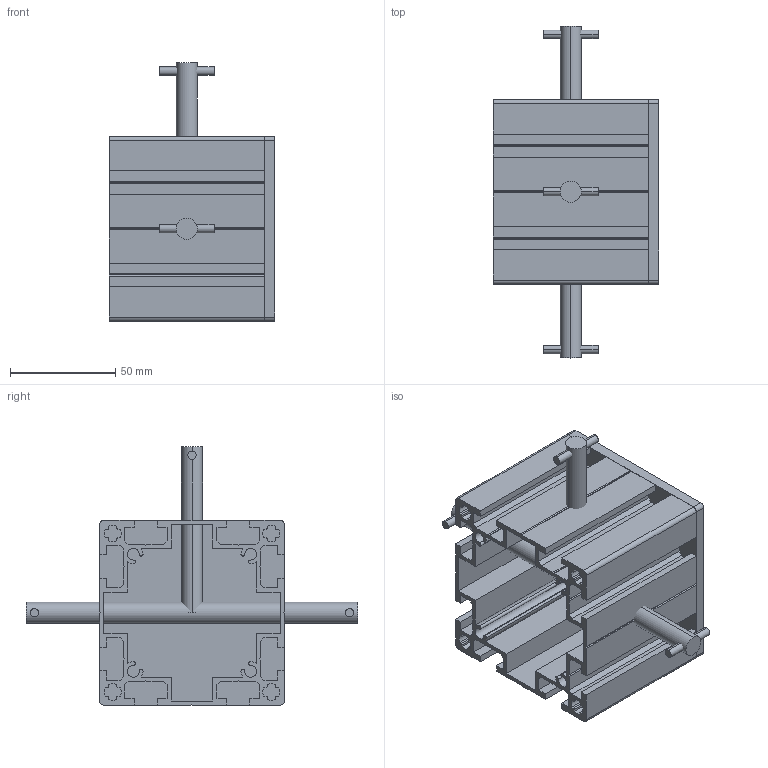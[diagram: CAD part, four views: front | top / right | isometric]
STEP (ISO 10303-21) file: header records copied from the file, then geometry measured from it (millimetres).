
FILE_DESCRIPTION (( 'STEP AP214' ), '1' );
FILE_NAME ('FGFW 90.step', '2017-04-05T08:04:45', ( '' ), ( '' ), 'SwSTEP 2.0', 'SolidWorks 2015', '' );
FILE_SCHEMA (( 'AUTOMOTIVE_DESIGN' ));
Length unit declared in the file: millimetre
Products named in the file (1): FGFW 90
Bounding box: 79 x 158 x 123 mm (x, y, z)
Volume: 159306.2 mm3; surface area: 114667.5 mm2
Topology: 7 solids, 7 shells, 268 faces, 762 edges, 508 vertices
Faces by surface type: plane 190, cylinder 78
Entity records: 11738 total; most frequent: CARTESIAN_POINT 1539, ORIENTED_EDGE 1524, DIRECTION 1456, EDGE_CURVE 762, LINE 606, VECTOR 606, VERTEX_POINT 508, AXIS2_PLACEMENT_3D 425
